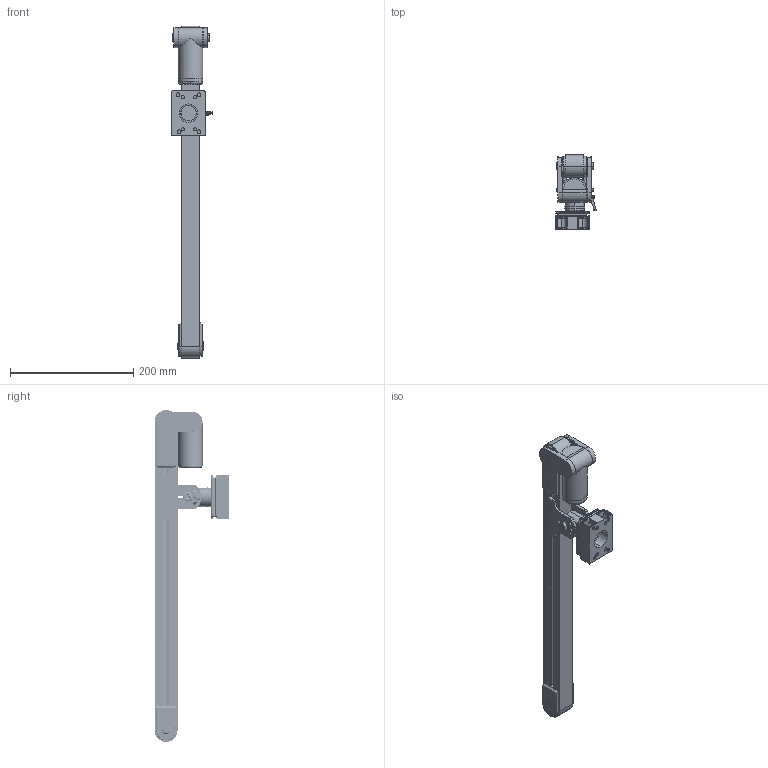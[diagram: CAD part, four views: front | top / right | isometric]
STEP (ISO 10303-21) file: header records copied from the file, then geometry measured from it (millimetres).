
FILE_DESCRIPTION(/* description */ (''),/* implementation_level */ '2;1');
FILE_NAME(/* name */ 'beltconveyor_a045_w30_l530.stp',/* time_stamp */ '2024-12-21T20:56:11+08:00',/* author */ (''),/* organization */ (''),/* preprocessor_version */ 'ST-DEVELOPER v16.7',/* originating_system */ 'SIEMENS PLM Software NX 12.0',/* authorisation */ '');
FILE_SCHEMA (('AUTOMOTIVE_DESIGN { 1 0 10303 214 3 1 1 1 }'));
Length unit declared in the file: millimetre
Products named in the file (128): Imported_8; 3_2; 12004022030-Teknikprodukter; 12004022030-Teknikprodukter_2; 3; 8_3; 5_3; Imported_4; Imported_39; 6_2; Imported_37; 1_2; Imported_15; 8_2; Imported_18; 6_1; Imported_66; Imported_60; Imported_46; Imported_42; Sicherungsring 12_1; Imported_35; 2_2; Imported_25; Imported_19; Imported_65; Imported_20; Imported_7; Imported_54; Imported_3; Imported_2; Imported_12; 4_1; Imported_16; Imported_67; 12004022030-Teknikprodukter_3; 3_1; 11; Imported_9; Imported_31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
Assembly tree (127 placements, depth 2):
  beltconveyor_a045_w30_l530
    9_3
    Sicherungsring 12
    6
    12_3
    Imported_56
    2
    Imported_61
    Imported_13
    1_3
    Imported_34
    Imported_28
    10_2
    Imported_30
    11_2
    Imported_5
    7_3
    12004022030-Teknikprodukter_1
    Imported_49
    5_2
    Imported
    8
    Imported_53
    12
    Imported_55
    Imported_27
    10_1
    Imported_17
    5_1
    Imported_26
    Imported_40
    12_2
    Imported_38
    Imported_29
    9
    11_3
    5
    1_4
    Imported_57
    9_1
    Imported_63
    2_1
    Imported_52
    Imported_69
    9_2
    Imported_11
    Imported_32
    4_3
    Imported_21
    Imported_58
    12_1
    1
    4_2
    Imported_51
    Imported_41
    Imported_68
    6_3
    4
    7_1
    Imported_14
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Bounding box: 65.81 x 120.69 x 537.91 mm (x, y, z)
Volume: 706889.9 mm3; surface area: 477258.9 mm2
Topology: 163 solids, 163 shells, 4824 faces, 13352 edges, 8707 vertices
Faces by surface type: cylinder 2025, plane 1534, cone 403, extrusion 369, sphere 256, torus 163, bspline 74
Entity records: 190631 total; most frequent: CARTESIAN_POINT 56511, ORIENTED_EDGE 26306, DIRECTION 25103, EDGE_CURVE 13153, AXIS2_PLACEMENT_3D 9638, VERTEX_POINT 8707, VECTOR 5827, LINE 5458
